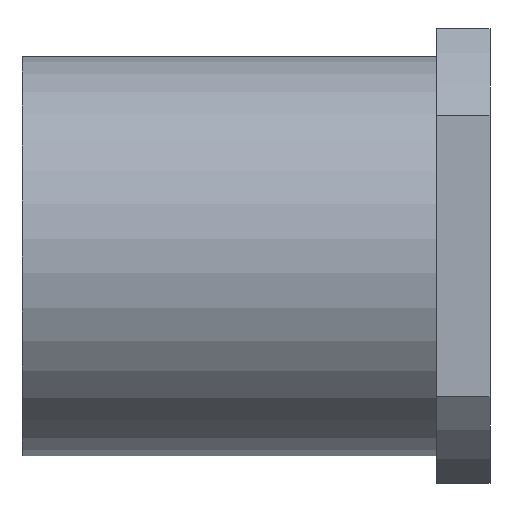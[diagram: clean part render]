
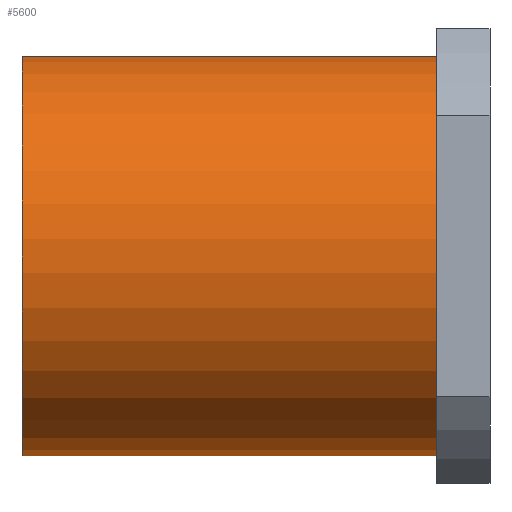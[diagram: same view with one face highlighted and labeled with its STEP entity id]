
A CAD part, front view. The second image highlights one B-rep face of the part: STEP entity #5600.
In plain terms, the highlighted cylindrical face has radius 75 mm (diameter 150 mm), a full revolution.
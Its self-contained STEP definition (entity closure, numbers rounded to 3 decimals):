
#85=CYLINDRICAL_SURFACE('',#5963,75.);
#118=CIRCLE('',#5964,75.);
#119=CIRCLE('',#5965,75.);
#1705=ORIENTED_EDGE('',*,*,#3316,.T.);
#1706=ORIENTED_EDGE('',*,*,#3317,.T.);
#3316=EDGE_CURVE('',#4120,#4120,#118,.T.);
#3317=EDGE_CURVE('',#4121,#4121,#119,.F.);
#4120=VERTEX_POINT('',#8878);
#4121=VERTEX_POINT('',#8880);
#4581=EDGE_LOOP('',(#1705));
#4582=EDGE_LOOP('',(#1706));
#4988=FACE_BOUND('',#4581,.T.);
#4989=FACE_BOUND('',#4582,.T.);
#5600=ADVANCED_FACE('',(#4988,#4989),#85,.T.);
#5963=AXIS2_PLACEMENT_3D('',#8876,#6489,#6490);
#5964=AXIS2_PLACEMENT_3D('',#8877,#6491,#6492);
#5965=AXIS2_PLACEMENT_3D('',#8879,#6493,#6494);
#6489=DIRECTION('',(1.,0.,0.));
#6490=DIRECTION('',(0.,0.707,-0.707));
#6491=DIRECTION('',(1.,0.,0.));
#6492=DIRECTION('',(0.,0.707,-0.707));
#6493=DIRECTION('',(1.,0.,0.));
#6494=DIRECTION('',(0.,0.707,-0.707));
#8876=CARTESIAN_POINT('',(-87.5,0.,0.));
#8877=CARTESIAN_POINT('',(-87.5,0.,0.));
#8878=CARTESIAN_POINT('',(-87.5,53.033,-53.033));
#8879=CARTESIAN_POINT('',(67.5,0.,0.));
#8880=CARTESIAN_POINT('',(67.5,53.033,-53.033));
